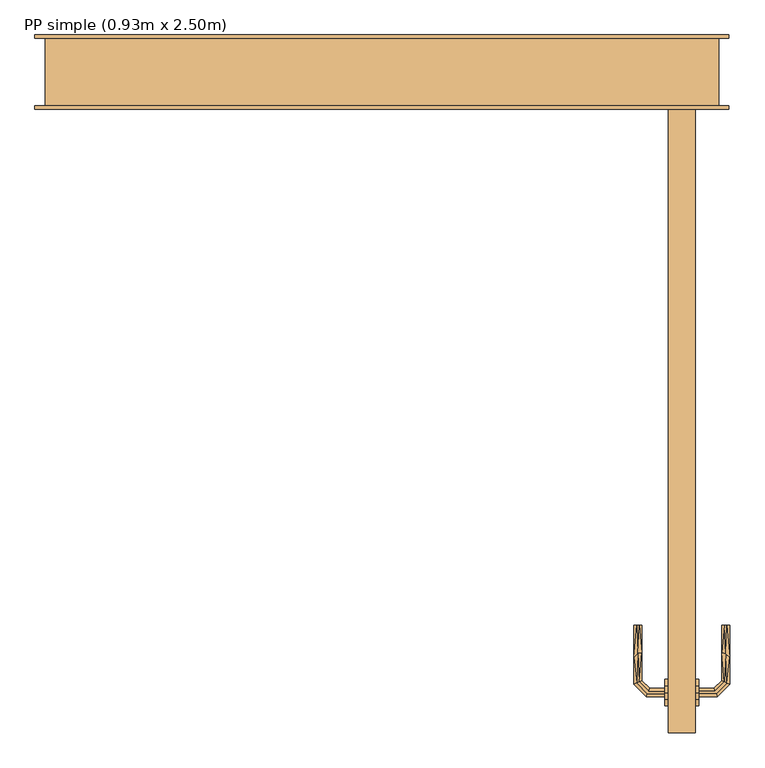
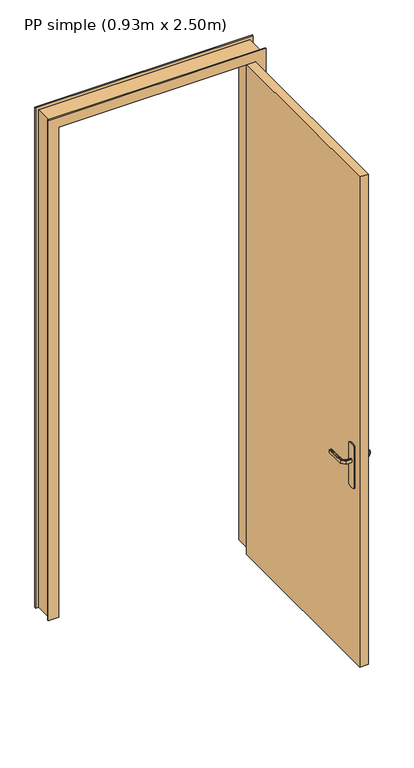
"""IFC4 building model written with IfcOpenShell, lengths in millimetres: door geometry, PP simple (0.93m x 2.50m)."""

from ifc_helpers import new_model, si_unit, frame, origin, origin_with_axes, place, context, project, spatial, polyline, outline, extrude, faceted_brep, source, transform, mapped, element, save


def pp_simple_0_93m_x_2_50m_4f1dd06f(model_context):
    return source(origin(), model_context, "Body", "SolidModel", [
        extrude(outline(polyline([(-859.6472382, 1083.9960169), (-850.0, 1080.0), (-850.0, 870.0), (-859.6472382, 866.0039831), (-870.0, 864.6410162), (-880.3527618, 866.0039831), (-890.0, 870.0), (-890.0, 1080.0), (-880.3527618, 1083.9960169), (-870.0, 1085.3589838), (-859.6472382, 1083.9960169)])), frame((965.0, 0.0, 0.0), z_axis=(1.0, 0.0, 0.0), x_axis=(0.0, 1.0, 0.0)), (0.0, 0.0, 1.0), 5.0),
        extrude(outline(polyline([(-859.6472382, 1083.9960169), (-850.0, 1080.0), (-850.0, 870.0), (-859.6472382, 866.0039831), (-870.0, 864.6410162), (-880.3527618, 866.0039831), (-890.0, 870.0), (-890.0, 1080.0), (-880.3527618, 1083.9960169), (-870.0, 1085.3589838), (-859.6472382, 1083.9960169)])), frame((920.0, 0.0, 0.0), z_axis=(1.0, 0.0, 0.0), x_axis=(0.0, 1.0, 0.0)), (0.0, 0.0, 1.0), 5.0),
        faceted_brep([(0.0, 100.0, 0.0), (-15.0, 100.0, 0.0), (-15.0, 105.0, 0.0), (50.0, 105.0, 0.0), (50.0, 40.0, 0.0), (35.0, 40.0, 0.0), (35.0, -5.0, 0.0), (-15.0, -5.0, 0.0), (-15.0, 0.0, 0.0), (0.0, 0.0, 0.0), (0.0, 0.0, 2485.0), (0.0, 100.0, 2485.0), (1000.0, 100.0, 2485.0), (1000.0, 100.0, 0.0), (1015.0, 100.0, 0.0), (1015.0, 100.0, 2500.0), (-15.0, 100.0, 2500.0), (50.0, 105.0, 2435.0), (50.0, 40.0, 2435.0), (950.0, 40.0, 2435.0), (950.0, 40.0, 0.0), (965.0, 40.0, 0.0), (965.0, 40.0, 2450.0), (35.0, 40.0, 2450.0), (1000.0, 0.0, 2485.0), (1000.0, 0.0, 0.0), (1015.0, 0.0, 0.0), (1015.0, -5.0, 0.0), (965.0, -5.0, 0.0), (950.0, 105.0, 0.0), (1015.0, 105.0, 0.0), (950.0, 105.0, 2435.0), (35.0, -5.0, 2450.0), (965.0, -5.0, 2450.0), (1015.0, -5.0, 2500.0), (-15.0, -5.0, 2500.0), (-15.0, 0.0, 2500.0), (1015.0, 0.0, 2500.0), (-15.0, 105.0, 2500.0), (1015.0, 105.0, 2500.0)], [[[0, 1, 2, 3, 4, 5, 6, 7, 8, 9]], [[0, 9, 10, 11]], [[1, 0, 11, 12, 13, 14, 15, 16]], [[3, 17, 18, 4]], [[5, 4, 18, 19, 20, 21, 22, 23]], [[12, 24, 25, 13]], [[13, 25, 26, 27, 28, 21, 20, 29, 30, 14]], [[19, 31, 29, 20]], [[11, 10, 24, 12]], [[18, 17, 31, 19]], [[5, 23, 32, 6]], [[7, 6, 32, 33, 28, 27, 34, 35]], [[8, 7, 35, 36]], [[9, 8, 36, 37, 26, 25, 24, 10]], [[2, 1, 16, 38]], [[3, 2, 38, 39, 30, 29, 31, 17]], [[33, 22, 21, 28]], [[37, 34, 27, 26]], [[39, 15, 14, 30]], [[32, 23, 22, 33]], [[36, 35, 34, 37]], [[38, 16, 15, 39]]]),
        faceted_brep([(920.0, -872.0252987, 1007.7804408), (920.0, -876.0, 1007.0), (920.0, -876.0, 993.0), (920.0, -872.0252987, 992.2195592), (920.0, -867.9747013, 992.2195592), (920.0, -864.0, 993.0), (920.0, -864.0, 1007.0), (920.0, -867.9747013, 1007.7804408), (897.5147955, -864.0, 993.0), (897.5147955, -864.0, 1007.0), (895.8684203, -867.9747013, 1007.7804408), (882.0548128, -854.1610938, 1007.7804408), (878.0042155, -855.8389062, 1007.7804408), (894.1906079, -872.0252987, 1007.7804408), (892.5442327, -876.0, 1007.0), (892.5442327, -876.0, 993.0), (894.1906079, -872.0252987, 992.2195592), (878.0042155, -855.8389062, 992.2195592), (882.0548128, -854.1610938, 992.2195592), (895.8684203, -867.9747013, 992.2195592), (886.0295141, -852.5147186, 993.0), (886.0295141, -852.5147186, 1007.0), (874.0295141, -857.4852814, 1007.0), (874.0295141, -857.4852814, 993.0), (886.0295141, -769.9542163, 993.0), (882.0548128, -769.9542163, 992.2195592), (878.0042155, -769.9542163, 992.2195592), (874.0295141, -769.9542163, 993.0), (874.0295141, -769.9542163, 1007.0), (878.0042155, -769.9542163, 1007.7804408), (882.0548128, -769.9542163, 1007.7804408), (886.0295141, -769.9542163, 1007.0), (886.0295141, -811.2344794, 993.0), (886.0295141, -811.2344675, 1007.0), (880.0295141, -812.0576551, 1007.8786868), (874.0295141, -817.5547942, 1007.0), (874.0295141, -817.5547957, 993.0), (880.0295142, -812.0576549, 992.1213132)], [[[0, 1, 2, 3, 4, 5, 6, 7]], [[6, 5, 8, 9]], [[9, 10, 7, 6]], [[10, 11, 12, 13, 0, 7]], [[13, 14, 1, 0]], [[2, 1, 14, 15]], [[15, 16, 3, 2]], [[16, 17, 18, 19, 4, 3]], [[19, 8, 5, 4]], [[9, 8, 20, 21]], [[21, 11, 10, 9]], [[12, 22, 14, 13]], [[15, 14, 22, 23]], [[23, 17, 16, 15]], [[18, 20, 8, 19]], [[24, 25, 26, 27, 28, 29, 30, 31]], [[21, 20, 32, 24, 31, 33]], [[33, 30, 34]], [[35, 34, 29]], [[21, 33, 11]], [[33, 31, 30]], [[28, 35, 29]], [[22, 12, 35]], [[35, 12, 34]], [[12, 11, 34]], [[11, 33, 34]], [[29, 34, 30]], [[22, 35, 28, 27, 36, 23]], [[36, 26, 37]], [[27, 26, 36]], [[17, 23, 36]], [[37, 32, 18]], [[20, 18, 32]], [[32, 25, 24]], [[26, 25, 37]], [[25, 32, 37]], [[17, 36, 37]], [[17, 37, 18]]]),
        faceted_brep([(970.0, -872.0252987, 1007.7804408), (970.0, -867.9747013, 1007.7804408), (970.0, -864.0, 1007.0), (970.0, -864.0, 993.0), (970.0, -867.9747013, 992.2195592), (970.0, -872.0252987, 992.2195592), (970.0, -876.0, 993.0), (970.0, -876.0, 1007.0), (997.6509507, -876.0, 1007.0), (996.0045755, -872.0252987, 1007.7804408), (1012.0534593, -855.9764148, 1007.7804408), (1008.002862, -854.2986025, 1007.7804408), (994.3267632, -867.9747013, 1007.7804408), (992.680388, -864.0, 1007.0), (992.680388, -864.0, 993.0), (994.3267632, -867.9747013, 992.2195592), (1008.002862, -854.2986025, 992.2195592), (1012.0534593, -855.9764148, 992.2195592), (996.0045755, -872.0252987, 992.2195592), (997.6509507, -876.0, 993.0), (1016.0281607, -857.62279, 1007.0), (1004.0281607, -852.6522273, 1007.0), (1004.0281607, -852.6522273, 993.0), (1016.0281607, -857.62279, 993.0), (1016.0281607, -769.9813594, 993.0), (1012.0534593, -769.9813594, 992.2195592), (1008.002862, -769.9813594, 992.2195592), (1004.0281607, -769.9813594, 993.0), (1004.0281607, -769.9813594, 1007.0), (1008.002862, -769.9813594, 1007.7804408), (1012.0534593, -769.9813594, 1007.7804408), (1016.0281607, -769.9813594, 1007.0), (1016.0281607, -817.6923028, 1007.0), (1010.0281607, -812.1399809, 1007.8786868), (1004.0281607, -811.3167933, 1007.0), (1004.0281607, -811.3167933, 993.0), (1010.0281608, -812.1399811, 992.1213132), (1016.0281607, -817.6922998, 993.0)], [[[0, 1, 2, 3, 4, 5, 6, 7]], [[8, 9, 0, 7]], [[9, 10, 11, 12, 1, 0]], [[12, 13, 2, 1]], [[3, 2, 13, 14]], [[14, 15, 4, 3]], [[15, 16, 17, 18, 5, 4]], [[18, 19, 6, 5]], [[7, 6, 19, 8]], [[20, 10, 9, 8]], [[11, 21, 13, 12]], [[14, 13, 21, 22]], [[22, 16, 15, 14]], [[17, 23, 19, 18]], [[8, 19, 23, 20]], [[24, 25, 26, 27, 28, 29, 30, 31]], [[32, 30, 33]], [[31, 30, 32]], [[10, 20, 32]], [[33, 34, 11]], [[21, 11, 34]], [[34, 29, 28]], [[30, 29, 33]], [[29, 34, 33]], [[10, 32, 33]], [[10, 33, 11]], [[22, 21, 34, 28, 27, 35]], [[35, 26, 36]], [[37, 36, 25]], [[22, 35, 16]], [[35, 27, 26]], [[24, 37, 25]], [[23, 17, 37]], [[37, 17, 36]], [[17, 16, 36]], [[16, 35, 36]], [[25, 36, 26]], [[20, 23, 37, 24, 31, 32]]]),
        extrude(outline(polyline([(925.0, -930.0), (925.0, 0.0), (965.0, 0.0), (965.0, -930.0), (925.0, -930.0)])), origin_with_axes(), (0.0, 0.0, 1.0), 2450.0),
    ])


if __name__ == "__main__":
    model = new_model("IFC4")
    model_context = context("Model", 3, world=origin())
    ifc_project = project(units=[si_unit("LENGTHUNIT", "METRE", prefix="MILLI")], contexts=[model_context])
    site = spatial("IfcSite", under=ifc_project)
    building = spatial("IfcBuilding", under=site)
    placement = place(None, origin())
    pp_simple_0_93m_x_2_50m_shape = pp_simple_0_93m_x_2_50m_4f1dd06f(model_context)
    element("IfcDoor", 1, ObjectType="PP simple (0.93m x 2.50m)", at=placement, inside=building, context=model_context, shape_type="MappedRepresentation", body=[
        mapped(pp_simple_0_93m_x_2_50m_shape, transform((0.0, 0.0, 0.0), x_axis=(1.0, 0.0, 0.0), y_axis=(0.0, 1.0, 0.0), z_axis=(0.0, 0.0, 1.0))),
    ])
    save(model, "model.ifc")
